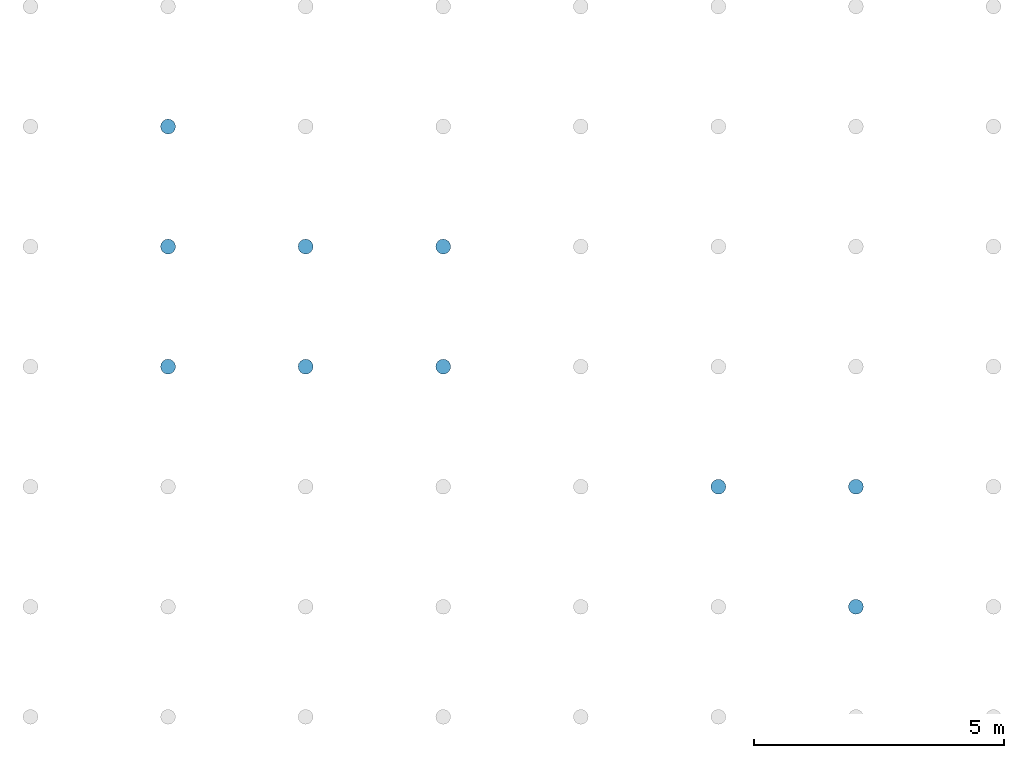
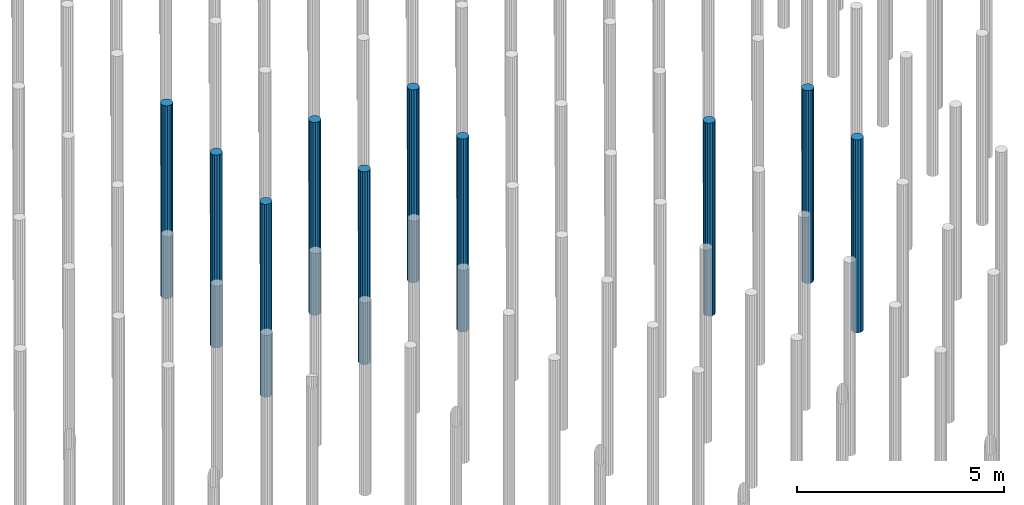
# One storey, part 86 of 102: 10 slabs.
"""IFC2X3 building model written with IfcOpenShell, lengths in millimetres."""

from ifc_helpers import new_model, entity, si_unit, converted_unit, derived_unit, money_unit, direction, frame, origin_with_axes, place, context, subcontext, project, spatial, faceted_brep, material, type_object, element, save


model = new_model("IFC2X3")

# Units and contexts
model_context = context("Model", 3, precision=0.01, world=origin_with_axes(), true_north=direction((0.0, 1.0)))
body_context = subcontext(model_context, "Body", "Model", "MODEL_VIEW")
ifc_project = project(units=[si_unit("LENGTHUNIT", "METRE", prefix="MILLI"), si_unit("AREAUNIT", "SQUARE_METRE"), si_unit("VOLUMEUNIT", "CUBIC_METRE"), converted_unit("PLANEANGLEUNIT", "DEGREE", entity("IfcPlaneAngleMeasure", 0.0174532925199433), si_unit("PLANEANGLEUNIT", "RADIAN"), dimensions=[0, 0, 0, 0, 0, 0, 0]), money_unit("EUR"), converted_unit("TIMEUNIT", "Year", entity("IfcTimeMeasure", 31557600.0), si_unit("TIMEUNIT", "SECOND"), dimensions=[0, 0, 1, 0, 0, 0, 0]), si_unit("MASSUNIT", "GRAM", prefix="KILO"), si_unit("THERMODYNAMICTEMPERATUREUNIT", "DEGREE_CELSIUS"), si_unit("LUMINOUSINTENSITYUNIT", "LUMEN"), si_unit("ENERGYUNIT", "JOULE", prefix="MEGA"), derived_unit("THERMALCONDUCTANCEUNIT", [(si_unit("POWERUNIT", "WATT"), 1), (si_unit("LENGTHUNIT", "METRE"), -1), (si_unit("THERMODYNAMICTEMPERATUREUNIT", "KELVIN"), -1)]), derived_unit("SPECIFICHEATCAPACITYUNIT", [(si_unit("ENERGYUNIT", "JOULE"), 1), (si_unit("MASSUNIT", "GRAM", prefix="KILO"), -1), (si_unit("THERMODYNAMICTEMPERATUREUNIT", "KELVIN"), -1)]), derived_unit("MASSDENSITYUNIT", [(si_unit("MASSUNIT", "GRAM", prefix="KILO"), 1), (si_unit("VOLUMEUNIT", "CUBIC_METRE"), -1)])], contexts=[model_context])

# Site, building, storey
site_placement = place(None, origin_with_axes())
site = spatial("IfcSite", under=ifc_project, at=site_placement, Name="Site", CompositionType="ELEMENT")
building_placement = place(site_placement, origin_with_axes())
building = spatial("IfcBuilding", under=site, at=building_placement, Name="Naam gebouw", CompositionType="ELEMENT")
storey_placement = place(building_placement, frame((0.0, 0.0, -1020.0), z_axis=(0.0, 0.0, 1.0), x_axis=(1.0, 0.0, 0.0)))
storey = spatial("IfcBuildingStorey", under=building, at=storey_placement, Name="-2 fundering", CompositionType="ELEMENT", Elevation=-1020.0)

# Slabs
ifc_material = material(Name="WSP_beton - ihwg beton")
slab_type_1 = type_object("IfcSlabType", Name="Slab 6", PredefinedType="NOTDEFINED")
slab_1_placement = place(storey_placement, frame((25299.99999999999, 30000.0, 979.9999952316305), z_axis=(0.0, 0.0, 1.0), x_axis=(1.0, 0.0, 0.0)))
element("IfcSlab", 1, at=slab_1_placement, inside=storey, type_object=slab_type_1, material=ifc_material, Name="17_WSP_FD_beton - fundatiepaal v21-2:ø300 (schroef)", PredefinedType="NOTDEFINED", context=body_context, shape_type="Brep", body=[
    faceted_brep([(84126.0, 66401.00000000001, -5980.0), (84124.0, 66401.00000000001, -5980.0), (84124.0, 66401.00000000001, -5978.000000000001), (84126.0, 66401.00000000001, -5978.000000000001), (84126.0, 66399.0, -5980.0), (84124.0, 66399.0, -5980.0), (84124.0, 66399.0, -5978.000000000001), (84126.0, 66399.0, -5978.000000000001)], [[[0, 1, 2, 3]], [[0, 4, 5, 1]], [[1, 5, 6, 2]], [[3, 2, 6, 7]], [[4, 0, 3, 7]], [[5, 4, 7, 6]]]),
    faceted_brep([(83975.0, 66400.0, -5980.0), (83986.41807012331, 66342.59748514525, -5980.0), (83986.41807012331, 66342.59748514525, -280.0000000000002), (83975.0, 66400.0, -280.0000000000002), (83986.41807012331, 66457.40251485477, -5980.0), (84018.93398282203, 66506.06601717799, -5980.0), (84067.59748514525, 66538.5819298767, -5980.0), (84125.0, 66550.00000000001, -5980.0), (84182.40251485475, 66538.5819298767, -5980.0), (84231.06601717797, 66506.06601717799, -5980.0), (84263.58192987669, 66457.40251485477, -5980.0), (84275.0, 66400.0, -5980.0), (84263.58192987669, 66342.59748514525, -5980.0), (84231.06601717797, 66293.93398282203, -5980.0), (84182.40251485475, 66261.41807012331, -5980.0), (84125.0, 66250.0, -5980.0), (84067.59748514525, 66261.41807012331, -5980.0), (84018.93398282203, 66293.93398282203, -5980.0), (84018.93398282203, 66293.93398282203, -280.0000000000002), (84067.59748514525, 66261.41807012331, -280.0000000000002), (84125.0, 66250.0, -280.0000000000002), (84182.40251485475, 66261.41807012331, -280.0000000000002), (84231.06601717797, 66293.93398282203, -280.0000000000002), (84263.58192987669, 66342.59748514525, -280.0000000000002), (84275.0, 66400.0, -280.0000000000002), (84263.58192987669, 66457.40251485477, -280.0000000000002), (84231.06601717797, 66506.06601717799, -280.0000000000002), (84182.40251485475, 66538.5819298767, -280.0000000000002), (84125.0, 66550.00000000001, -280.0000000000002), (84067.59748514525, 66538.5819298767, -280.0000000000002), (84018.93398282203, 66506.06601717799, -280.0000000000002), (83986.41807012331, 66457.40251485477, -280.0000000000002)], [[[0, 1, 2, 3]], [[0, 4, 5, 6, 7, 8, 9, 10, 11, 12, 13, 14, 15, 16, 17, 1]], [[1, 17, 18, 2]], [[3, 2, 18, 19, 20, 21, 22, 23, 24, 25, 26, 27, 28, 29, 30, 31]], [[4, 0, 3, 31]], [[5, 4, 31, 30]], [[6, 5, 30, 29]], [[7, 6, 29, 28]], [[8, 7, 28, 27]], [[9, 8, 27, 26]], [[10, 9, 26, 25]], [[11, 10, 25, 24]], [[12, 11, 24, 23]], [[13, 12, 23, 22]], [[14, 13, 22, 21]], [[15, 14, 21, 20]], [[16, 15, 20, 19]], [[17, 16, 19, 18]]]),
])
slab_type_2 = type_object("IfcSlabType", Name="Slab 7", PredefinedType="NOTDEFINED")
slab_2_placement = place(storey_placement, frame((25299.99999999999, 30000.0, 979.9999952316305), z_axis=(0.0, 0.0, 1.0), x_axis=(1.0, 0.0, 0.0)))
element("IfcSlab", 2, at=slab_2_placement, inside=storey, type_object=slab_type_2, material=ifc_material, Name="17_WSP_FD_beton - fundatiepaal v21-2:ø300 (schroef)", PredefinedType="NOTDEFINED", context=body_context, shape_type="Brep", body=[
    faceted_brep([(86876.0, 66401.00000000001, -5980.0), (86874.0, 66401.00000000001, -5980.0), (86874.0, 66401.00000000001, -5978.000000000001), (86876.0, 66401.00000000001, -5978.000000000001), (86876.0, 66399.0, -5980.0), (86874.0, 66399.0, -5980.0), (86874.0, 66399.0, -5978.000000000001), (86876.0, 66399.0, -5978.000000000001)], [[[0, 1, 2, 3]], [[0, 4, 5, 1]], [[1, 5, 6, 2]], [[3, 2, 6, 7]], [[4, 0, 3, 7]], [[5, 4, 7, 6]]]),
    faceted_brep([(86725.0, 66400.0, -5980.0), (86736.41807012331, 66342.59748514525, -5980.0), (86736.41807012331, 66342.59748514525, -280.0000000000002), (86725.0, 66400.0, -280.0000000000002), (86736.41807012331, 66457.40251485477, -5980.0), (86768.93398282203, 66506.06601717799, -5980.0), (86817.59748514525, 66538.5819298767, -5980.0), (86875.0, 66550.00000000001, -5980.0), (86932.40251485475, 66538.5819298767, -5980.0), (86981.06601717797, 66506.06601717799, -5980.0), (87013.58192987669, 66457.40251485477, -5980.0), (87025.0, 66400.0, -5980.0), (87013.58192987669, 66342.59748514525, -5980.0), (86981.06601717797, 66293.93398282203, -5980.0), (86932.40251485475, 66261.41807012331, -5980.0), (86875.0, 66250.0, -5980.0), (86817.59748514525, 66261.41807012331, -5980.0), (86768.93398282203, 66293.93398282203, -5980.0), (86768.93398282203, 66293.93398282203, -280.0000000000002), (86817.59748514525, 66261.41807012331, -280.0000000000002), (86875.0, 66250.0, -280.0000000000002), (86932.40251485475, 66261.41807012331, -280.0000000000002), (86981.06601717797, 66293.93398282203, -280.0000000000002), (87013.58192987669, 66342.59748514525, -280.0000000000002), (87025.0, 66400.0, -280.0000000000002), (87013.58192987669, 66457.40251485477, -280.0000000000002), (86981.06601717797, 66506.06601717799, -280.0000000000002), (86932.40251485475, 66538.5819298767, -280.0000000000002), (86875.0, 66550.00000000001, -280.0000000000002), (86817.59748514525, 66538.5819298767, -280.0000000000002), (86768.93398282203, 66506.06601717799, -280.0000000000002), (86736.41807012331, 66457.40251485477, -280.0000000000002)], [[[0, 1, 2, 3]], [[0, 4, 5, 6, 7, 8, 9, 10, 11, 12, 13, 14, 15, 16, 17, 1]], [[1, 17, 18, 2]], [[3, 2, 18, 19, 20, 21, 22, 23, 24, 25, 26, 27, 28, 29, 30, 31]], [[4, 0, 3, 31]], [[5, 4, 31, 30]], [[6, 5, 30, 29]], [[7, 6, 29, 28]], [[8, 7, 28, 27]], [[9, 8, 27, 26]], [[10, 9, 26, 25]], [[11, 10, 25, 24]], [[12, 11, 24, 23]], [[13, 12, 23, 22]], [[14, 13, 22, 21]], [[15, 14, 21, 20]], [[16, 15, 20, 19]], [[17, 16, 19, 18]]]),
])
slab_type_3 = type_object("IfcSlabType", Name="Slab 9", PredefinedType="NOTDEFINED")
slab_3_placement = place(storey_placement, frame((25299.99999999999, 30000.0, 979.9999952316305), z_axis=(0.0, 0.0, 1.0), x_axis=(1.0, 0.0, 0.0)))
element("IfcSlab", 3, at=slab_3_placement, inside=storey, type_object=slab_type_3, material=ifc_material, Name="17_WSP_FD_beton - fundatiepaal v21-2:ø300 (schroef)", PredefinedType="NOTDEFINED", context=body_context, shape_type="Brep", body=[
    faceted_brep([(81376.0, 66401.00000000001, -5980.0), (81374.0, 66401.00000000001, -5980.0), (81374.0, 66401.00000000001, -5978.000000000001), (81376.0, 66401.00000000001, -5978.000000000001), (81376.0, 66399.0, -5980.0), (81374.0, 66399.0, -5980.0), (81374.0, 66399.0, -5978.000000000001), (81376.0, 66399.0, -5978.000000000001)], [[[0, 1, 2, 3]], [[0, 4, 5, 1]], [[1, 5, 6, 2]], [[3, 2, 6, 7]], [[4, 0, 3, 7]], [[5, 4, 7, 6]]]),
    faceted_brep([(81225.0, 66400.0, -5980.0), (81236.41807012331, 66342.59748514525, -5980.0), (81236.41807012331, 66342.59748514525, -280.0000000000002), (81225.0, 66400.0, -280.0000000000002), (81236.41807012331, 66457.40251485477, -5980.0), (81268.93398282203, 66506.06601717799, -5980.0), (81317.59748514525, 66538.5819298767, -5980.0), (81375.0, 66550.00000000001, -5980.0), (81432.40251485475, 66538.5819298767, -5980.0), (81481.06601717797, 66506.06601717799, -5980.0), (81513.58192987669, 66457.40251485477, -5980.0), (81525.0, 66400.0, -5980.0), (81513.58192987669, 66342.59748514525, -5980.0), (81481.06601717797, 66293.93398282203, -5980.0), (81432.40251485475, 66261.41807012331, -5980.0), (81375.0, 66250.0, -5980.0), (81317.59748514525, 66261.41807012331, -5980.0), (81268.93398282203, 66293.93398282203, -5980.0), (81268.93398282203, 66293.93398282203, -280.0000000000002), (81317.59748514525, 66261.41807012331, -280.0000000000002), (81375.0, 66250.0, -280.0000000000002), (81432.40251485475, 66261.41807012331, -280.0000000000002), (81481.06601717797, 66293.93398282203, -280.0000000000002), (81513.58192987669, 66342.59748514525, -280.0000000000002), (81525.0, 66400.0, -280.0000000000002), (81513.58192987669, 66457.40251485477, -280.0000000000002), (81481.06601717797, 66506.06601717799, -280.0000000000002), (81432.40251485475, 66538.5819298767, -280.0000000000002), (81375.0, 66550.00000000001, -280.0000000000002), (81317.59748514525, 66538.5819298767, -280.0000000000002), (81268.93398282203, 66506.06601717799, -280.0000000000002), (81236.41807012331, 66457.40251485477, -280.0000000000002)], [[[0, 1, 2, 3]], [[0, 4, 5, 6, 7, 8, 9, 10, 11, 12, 13, 14, 15, 16, 17, 1]], [[1, 17, 18, 2]], [[3, 2, 18, 19, 20, 21, 22, 23, 24, 25, 26, 27, 28, 29, 30, 31]], [[4, 0, 3, 31]], [[5, 4, 31, 30]], [[6, 5, 30, 29]], [[7, 6, 29, 28]], [[8, 7, 28, 27]], [[9, 8, 27, 26]], [[10, 9, 26, 25]], [[11, 10, 25, 24]], [[12, 11, 24, 23]], [[13, 12, 23, 22]], [[14, 13, 22, 21]], [[15, 14, 21, 20]], [[16, 15, 20, 19]], [[17, 16, 19, 18]]]),
])
slab_type_4 = type_object("IfcSlabType", Name="Slab 666", PredefinedType="NOTDEFINED")
slab_4_placement = place(storey_placement, frame((25299.99999999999, 30000.0, 979.9999952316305), z_axis=(0.0, 0.0, 1.0), x_axis=(1.0, 0.0, 0.0)))
element("IfcSlab", 4, at=slab_4_placement, inside=storey, type_object=slab_type_4, material=ifc_material, Name="17_WSP_FD_beton - fundatiepaal v21-2:ø300 (schroef)", PredefinedType="NOTDEFINED", context=body_context, shape_type="Brep", body=[
    faceted_brep([(92376.0, 64001.00000000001, -5980.0), (92374.0, 64001.00000000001, -5980.0), (92374.0, 64001.00000000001, -5978.000000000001), (92376.0, 64001.00000000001, -5978.000000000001), (92376.0, 63999.0, -5980.0), (92374.0, 63999.0, -5980.0), (92374.0, 63999.0, -5978.000000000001), (92376.0, 63999.0, -5978.000000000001)], [[[0, 1, 2, 3]], [[0, 4, 5, 1]], [[1, 5, 6, 2]], [[3, 2, 6, 7]], [[4, 0, 3, 7]], [[5, 4, 7, 6]]]),
    faceted_brep([(92225.0, 64000.0, -5980.0), (92236.41807012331, 63942.59748514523, -5980.0), (92236.41807012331, 63942.59748514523, -280.0000000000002), (92225.0, 64000.0, -280.0000000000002), (92236.41807012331, 64057.40251485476, -5980.0), (92268.93398282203, 64106.06601717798, -5980.0), (92317.59748514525, 64138.58192987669, -5980.0), (92375.0, 64150.00000000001, -5980.0), (92432.40251485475, 64138.58192987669, -5980.0), (92481.06601717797, 64106.06601717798, -5980.0), (92513.58192987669, 64057.40251485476, -5980.0), (92525.0, 64000.0, -5980.0), (92513.58192987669, 63942.59748514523, -5980.0), (92481.06601717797, 63893.93398282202, -5980.0), (92432.40251485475, 63861.41807012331, -5980.0), (92375.0, 63850.0, -5980.0), (92317.59748514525, 63861.41807012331, -5980.0), (92268.93398282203, 63893.93398282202, -5980.0), (92268.93398282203, 63893.93398282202, -280.0000000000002), (92317.59748514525, 63861.41807012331, -280.0000000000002), (92375.0, 63850.0, -280.0000000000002), (92432.40251485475, 63861.41807012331, -280.0000000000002), (92481.06601717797, 63893.93398282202, -280.0000000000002), (92513.58192987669, 63942.59748514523, -280.0000000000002), (92525.0, 64000.0, -280.0000000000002), (92513.58192987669, 64057.40251485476, -280.0000000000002), (92481.06601717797, 64106.06601717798, -280.0000000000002), (92432.40251485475, 64138.58192987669, -280.0000000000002), (92375.0, 64150.00000000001, -280.0000000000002), (92317.59748514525, 64138.58192987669, -280.0000000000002), (92268.93398282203, 64106.06601717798, -280.0000000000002), (92236.41807012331, 64057.40251485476, -280.0000000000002)], [[[0, 1, 2, 3]], [[0, 4, 5, 6, 7, 8, 9, 10, 11, 12, 13, 14, 15, 16, 17, 1]], [[1, 17, 18, 2]], [[3, 2, 18, 19, 20, 21, 22, 23, 24, 25, 26, 27, 28, 29, 30, 31]], [[4, 0, 3, 31]], [[5, 4, 31, 30]], [[6, 5, 30, 29]], [[7, 6, 29, 28]], [[8, 7, 28, 27]], [[9, 8, 27, 26]], [[10, 9, 26, 25]], [[11, 10, 25, 24]], [[12, 11, 24, 23]], [[13, 12, 23, 22]], [[14, 13, 22, 21]], [[15, 14, 21, 20]], [[16, 15, 20, 19]], [[17, 16, 19, 18]]]),
])
slab_type_5 = type_object("IfcSlabType", Name="Slab 667", PredefinedType="NOTDEFINED")
slab_5_placement = place(storey_placement, frame((25299.99999999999, 30000.0, 979.9999952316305), z_axis=(0.0, 0.0, 1.0), x_axis=(1.0, 0.0, 0.0)))
element("IfcSlab", 5, at=slab_5_placement, inside=storey, type_object=slab_type_5, material=ifc_material, Name="17_WSP_FD_beton - fundatiepaal v21-2:ø300 (schroef)", PredefinedType="NOTDEFINED", context=body_context, shape_type="Brep", body=[
    faceted_brep([(95126.0, 64001.00000000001, -5980.0), (95124.0, 64001.00000000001, -5980.0), (95124.0, 64001.00000000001, -5978.000000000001), (95126.0, 64001.00000000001, -5978.000000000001), (95126.0, 63999.0, -5980.0), (95124.0, 63999.0, -5980.0), (95124.0, 63999.0, -5978.000000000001), (95126.0, 63999.0, -5978.000000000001)], [[[0, 1, 2, 3]], [[0, 4, 5, 1]], [[1, 5, 6, 2]], [[3, 2, 6, 7]], [[4, 0, 3, 7]], [[5, 4, 7, 6]]]),
    faceted_brep([(94975.0, 64000.0, -5980.0), (94986.41807012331, 63942.59748514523, -5980.0), (94986.41807012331, 63942.59748514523, -280.0000000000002), (94975.0, 64000.0, -280.0000000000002), (94986.41807012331, 64057.40251485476, -5980.0), (95018.93398282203, 64106.06601717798, -5980.0), (95067.59748514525, 64138.58192987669, -5980.0), (95125.0, 64150.00000000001, -5980.0), (95182.40251485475, 64138.58192987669, -5980.0), (95231.06601717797, 64106.06601717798, -5980.0), (95263.58192987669, 64057.40251485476, -5980.0), (95275.0, 64000.0, -5980.0), (95263.58192987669, 63942.59748514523, -5980.0), (95231.06601717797, 63893.93398282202, -5980.0), (95182.40251485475, 63861.41807012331, -5980.0), (95125.0, 63850.0, -5980.0), (95067.59748514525, 63861.41807012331, -5980.0), (95018.93398282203, 63893.93398282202, -5980.0), (95018.93398282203, 63893.93398282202, -280.0000000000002), (95067.59748514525, 63861.41807012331, -280.0000000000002), (95125.0, 63850.0, -280.0000000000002), (95182.40251485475, 63861.41807012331, -280.0000000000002), (95231.06601717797, 63893.93398282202, -280.0000000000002), (95263.58192987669, 63942.59748514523, -280.0000000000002), (95275.0, 64000.0, -280.0000000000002), (95263.58192987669, 64057.40251485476, -280.0000000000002), (95231.06601717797, 64106.06601717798, -280.0000000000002), (95182.40251485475, 64138.58192987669, -280.0000000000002), (95125.0, 64150.00000000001, -280.0000000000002), (95067.59748514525, 64138.58192987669, -280.0000000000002), (95018.93398282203, 64106.06601717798, -280.0000000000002), (94986.41807012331, 64057.40251485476, -280.0000000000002)], [[[0, 1, 2, 3]], [[0, 4, 5, 6, 7, 8, 9, 10, 11, 12, 13, 14, 15, 16, 17, 1]], [[1, 17, 18, 2]], [[3, 2, 18, 19, 20, 21, 22, 23, 24, 25, 26, 27, 28, 29, 30, 31]], [[4, 0, 3, 31]], [[5, 4, 31, 30]], [[6, 5, 30, 29]], [[7, 6, 29, 28]], [[8, 7, 28, 27]], [[9, 8, 27, 26]], [[10, 9, 26, 25]], [[11, 10, 25, 24]], [[12, 11, 24, 23]], [[13, 12, 23, 22]], [[14, 13, 22, 21]], [[15, 14, 21, 20]], [[16, 15, 20, 19]], [[17, 16, 19, 18]]]),
])
slab_type_6 = type_object("IfcSlabType", Name="Slab 681", PredefinedType="NOTDEFINED")
slab_6_placement = place(storey_placement, frame((25299.99999999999, 30000.0, 979.9999952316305), z_axis=(0.0, 0.0, 1.0), x_axis=(1.0, 0.0, 0.0)))
element("IfcSlab", 6, at=slab_6_placement, inside=storey, type_object=slab_type_6, material=ifc_material, Name="17_WSP_FD_beton - fundatiepaal v21-2:ø300 (schroef)", PredefinedType="NOTDEFINED", context=body_context, shape_type="Brep", body=[
    faceted_brep([(84126.0, 68801.0, -5980.0), (84124.0, 68801.0, -5980.0), (84124.0, 68801.0, -5978.000000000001), (84126.0, 68801.0, -5978.000000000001), (84126.0, 68798.99999999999, -5980.0), (84124.0, 68798.99999999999, -5980.0), (84124.0, 68798.99999999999, -5978.000000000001), (84126.0, 68798.99999999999, -5978.000000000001)], [[[0, 1, 2, 3]], [[0, 4, 5, 1]], [[1, 5, 6, 2]], [[3, 2, 6, 7]], [[4, 0, 3, 7]], [[5, 4, 7, 6]]]),
    faceted_brep([(83975.0, 68800.0, -5980.0), (83986.41807012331, 68742.59748514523, -5980.0), (83986.41807012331, 68742.59748514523, -280.0000000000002), (83975.0, 68800.0, -280.0000000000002), (83986.41807012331, 68857.40251485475, -5980.0), (84018.93398282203, 68906.06601717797, -5980.0), (84067.59748514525, 68938.58192987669, -5980.0), (84125.0, 68950.0, -5980.0), (84182.40251485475, 68938.58192987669, -5980.0), (84231.06601717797, 68906.06601717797, -5980.0), (84263.58192987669, 68857.40251485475, -5980.0), (84275.0, 68800.0, -5980.0), (84263.58192987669, 68742.59748514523, -5980.0), (84231.06601717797, 68693.93398282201, -5980.0), (84182.40251485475, 68661.4180701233, -5980.0), (84125.0, 68649.99999999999, -5980.0), (84067.59748514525, 68661.4180701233, -5980.0), (84018.93398282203, 68693.93398282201, -5980.0), (84018.93398282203, 68693.93398282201, -280.0000000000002), (84067.59748514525, 68661.4180701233, -280.0000000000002), (84125.0, 68649.99999999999, -280.0000000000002), (84182.40251485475, 68661.4180701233, -280.0000000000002), (84231.06601717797, 68693.93398282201, -280.0000000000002), (84263.58192987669, 68742.59748514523, -280.0000000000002), (84275.0, 68800.0, -280.0000000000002), (84263.58192987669, 68857.40251485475, -280.0000000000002), (84231.06601717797, 68906.06601717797, -280.0000000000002), (84182.40251485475, 68938.58192987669, -280.0000000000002), (84125.0, 68950.0, -280.0000000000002), (84067.59748514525, 68938.58192987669, -280.0000000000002), (84018.93398282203, 68906.06601717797, -280.0000000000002), (83986.41807012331, 68857.40251485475, -280.0000000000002)], [[[0, 1, 2, 3]], [[0, 4, 5, 6, 7, 8, 9, 10, 11, 12, 13, 14, 15, 16, 17, 1]], [[1, 17, 18, 2]], [[3, 2, 18, 19, 20, 21, 22, 23, 24, 25, 26, 27, 28, 29, 30, 31]], [[4, 0, 3, 31]], [[5, 4, 31, 30]], [[6, 5, 30, 29]], [[7, 6, 29, 28]], [[8, 7, 28, 27]], [[9, 8, 27, 26]], [[10, 9, 26, 25]], [[11, 10, 25, 24]], [[12, 11, 24, 23]], [[13, 12, 23, 22]], [[14, 13, 22, 21]], [[15, 14, 21, 20]], [[16, 15, 20, 19]], [[17, 16, 19, 18]]]),
])
slab_type_7 = type_object("IfcSlabType", Name="Slab 682", PredefinedType="NOTDEFINED")
slab_7_placement = place(storey_placement, frame((25299.99999999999, 30000.0, 979.9999952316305), z_axis=(0.0, 0.0, 1.0), x_axis=(1.0, 0.0, 0.0)))
element("IfcSlab", 7, at=slab_7_placement, inside=storey, type_object=slab_type_7, material=ifc_material, Name="17_WSP_FD_beton - fundatiepaal v21-2:ø300 (schroef)", PredefinedType="NOTDEFINED", context=body_context, shape_type="Brep", body=[
    faceted_brep([(86876.0, 68801.0, -5980.0), (86874.0, 68801.0, -5980.0), (86874.0, 68801.0, -5978.000000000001), (86876.0, 68801.0, -5978.000000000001), (86876.0, 68798.99999999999, -5980.0), (86874.0, 68798.99999999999, -5980.0), (86874.0, 68798.99999999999, -5978.000000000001), (86876.0, 68798.99999999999, -5978.000000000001)], [[[0, 1, 2, 3]], [[0, 4, 5, 1]], [[1, 5, 6, 2]], [[3, 2, 6, 7]], [[4, 0, 3, 7]], [[5, 4, 7, 6]]]),
    faceted_brep([(86725.0, 68800.0, -5980.0), (86736.41807012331, 68742.59748514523, -5980.0), (86736.41807012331, 68742.59748514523, -280.0000000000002), (86725.0, 68800.0, -280.0000000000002), (86736.41807012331, 68857.40251485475, -5980.0), (86768.93398282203, 68906.06601717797, -5980.0), (86817.59748514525, 68938.58192987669, -5980.0), (86875.0, 68950.0, -5980.0), (86932.40251485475, 68938.58192987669, -5980.0), (86981.06601717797, 68906.06601717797, -5980.0), (87013.58192987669, 68857.40251485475, -5980.0), (87025.0, 68800.0, -5980.0), (87013.58192987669, 68742.59748514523, -5980.0), (86981.06601717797, 68693.93398282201, -5980.0), (86932.40251485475, 68661.4180701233, -5980.0), (86875.0, 68649.99999999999, -5980.0), (86817.59748514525, 68661.4180701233, -5980.0), (86768.93398282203, 68693.93398282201, -5980.0), (86768.93398282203, 68693.93398282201, -280.0000000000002), (86817.59748514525, 68661.4180701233, -280.0000000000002), (86875.0, 68649.99999999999, -280.0000000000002), (86932.40251485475, 68661.4180701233, -280.0000000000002), (86981.06601717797, 68693.93398282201, -280.0000000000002), (87013.58192987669, 68742.59748514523, -280.0000000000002), (87025.0, 68800.0, -280.0000000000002), (87013.58192987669, 68857.40251485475, -280.0000000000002), (86981.06601717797, 68906.06601717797, -280.0000000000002), (86932.40251485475, 68938.58192987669, -280.0000000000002), (86875.0, 68950.0, -280.0000000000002), (86817.59748514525, 68938.58192987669, -280.0000000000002), (86768.93398282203, 68906.06601717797, -280.0000000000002), (86736.41807012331, 68857.40251485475, -280.0000000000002)], [[[0, 1, 2, 3]], [[0, 4, 5, 6, 7, 8, 9, 10, 11, 12, 13, 14, 15, 16, 17, 1]], [[1, 17, 18, 2]], [[3, 2, 18, 19, 20, 21, 22, 23, 24, 25, 26, 27, 28, 29, 30, 31]], [[4, 0, 3, 31]], [[5, 4, 31, 30]], [[6, 5, 30, 29]], [[7, 6, 29, 28]], [[8, 7, 28, 27]], [[9, 8, 27, 26]], [[10, 9, 26, 25]], [[11, 10, 25, 24]], [[12, 11, 24, 23]], [[13, 12, 23, 22]], [[14, 13, 22, 21]], [[15, 14, 21, 20]], [[16, 15, 20, 19]], [[17, 16, 19, 18]]]),
])
slab_type_8 = type_object("IfcSlabType", Name="Slab 680", PredefinedType="NOTDEFINED")
slab_8_placement = place(storey_placement, frame((25299.99999999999, 30000.0, 979.9999952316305), z_axis=(0.0, 0.0, 1.0), x_axis=(1.0, 0.0, 0.0)))
element("IfcSlab", 8, at=slab_8_placement, inside=storey, type_object=slab_type_8, material=ifc_material, Name="17_WSP_FD_beton - fundatiepaal v21-2:ø300 (schroef)", PredefinedType="NOTDEFINED", context=body_context, shape_type="Brep", body=[
    faceted_brep([(81376.0, 68801.0, -5980.0), (81374.0, 68801.0, -5980.0), (81374.0, 68801.0, -5978.000000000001), (81376.0, 68801.0, -5978.000000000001), (81376.0, 68798.99999999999, -5980.0), (81374.0, 68798.99999999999, -5980.0), (81374.0, 68798.99999999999, -5978.000000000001), (81376.0, 68798.99999999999, -5978.000000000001)], [[[0, 1, 2, 3]], [[0, 4, 5, 1]], [[1, 5, 6, 2]], [[3, 2, 6, 7]], [[4, 0, 3, 7]], [[5, 4, 7, 6]]]),
    faceted_brep([(81225.0, 68800.0, -5980.0), (81236.41807012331, 68742.59748514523, -5980.0), (81236.41807012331, 68742.59748514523, -280.0000000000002), (81225.0, 68800.0, -280.0000000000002), (81236.41807012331, 68857.40251485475, -5980.0), (81268.93398282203, 68906.06601717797, -5980.0), (81317.59748514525, 68938.58192987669, -5980.0), (81375.0, 68950.0, -5980.0), (81432.40251485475, 68938.58192987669, -5980.0), (81481.06601717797, 68906.06601717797, -5980.0), (81513.58192987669, 68857.40251485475, -5980.0), (81525.0, 68800.0, -5980.0), (81513.58192987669, 68742.59748514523, -5980.0), (81481.06601717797, 68693.93398282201, -5980.0), (81432.40251485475, 68661.4180701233, -5980.0), (81375.0, 68649.99999999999, -5980.0), (81317.59748514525, 68661.4180701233, -5980.0), (81268.93398282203, 68693.93398282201, -5980.0), (81268.93398282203, 68693.93398282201, -280.0000000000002), (81317.59748514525, 68661.4180701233, -280.0000000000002), (81375.0, 68649.99999999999, -280.0000000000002), (81432.40251485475, 68661.4180701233, -280.0000000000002), (81481.06601717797, 68693.93398282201, -280.0000000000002), (81513.58192987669, 68742.59748514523, -280.0000000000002), (81525.0, 68800.0, -280.0000000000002), (81513.58192987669, 68857.40251485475, -280.0000000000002), (81481.06601717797, 68906.06601717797, -280.0000000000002), (81432.40251485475, 68938.58192987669, -280.0000000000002), (81375.0, 68950.0, -280.0000000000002), (81317.59748514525, 68938.58192987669, -280.0000000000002), (81268.93398282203, 68906.06601717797, -280.0000000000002), (81236.41807012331, 68857.40251485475, -280.0000000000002)], [[[0, 1, 2, 3]], [[0, 4, 5, 6, 7, 8, 9, 10, 11, 12, 13, 14, 15, 16, 17, 1]], [[1, 17, 18, 2]], [[3, 2, 18, 19, 20, 21, 22, 23, 24, 25, 26, 27, 28, 29, 30, 31]], [[4, 0, 3, 31]], [[5, 4, 31, 30]], [[6, 5, 30, 29]], [[7, 6, 29, 28]], [[8, 7, 28, 27]], [[9, 8, 27, 26]], [[10, 9, 26, 25]], [[11, 10, 25, 24]], [[12, 11, 24, 23]], [[13, 12, 23, 22]], [[14, 13, 22, 21]], [[15, 14, 21, 20]], [[16, 15, 20, 19]], [[17, 16, 19, 18]]]),
])
slab_type_9 = type_object("IfcSlabType", Name="Slab 713", PredefinedType="NOTDEFINED")
slab_9_placement = place(storey_placement, frame((25299.99999999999, 30000.0, 979.9999952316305), z_axis=(0.0, 0.0, 1.0), x_axis=(1.0, 0.0, 0.0)))
element("IfcSlab", 9, at=slab_9_placement, inside=storey, type_object=slab_type_9, material=ifc_material, Name="17_WSP_FD_beton - fundatiepaal v21-2:ø300 (schroef)", PredefinedType="NOTDEFINED", context=body_context, shape_type="Brep", body=[
    faceted_brep([(95126.0, 61601.0, -5980.0), (95124.0, 61601.0, -5980.0), (95124.0, 61601.0, -5978.000000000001), (95126.0, 61601.0, -5978.000000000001), (95126.0, 61599.00000000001, -5980.0), (95124.0, 61599.00000000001, -5980.0), (95124.0, 61599.00000000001, -5978.000000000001), (95126.0, 61599.00000000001, -5978.000000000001)], [[[0, 1, 2, 3]], [[0, 4, 5, 1]], [[1, 5, 6, 2]], [[3, 2, 6, 7]], [[4, 0, 3, 7]], [[5, 4, 7, 6]]]),
    faceted_brep([(94975.0, 61600.0, -5980.0), (94986.41807012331, 61542.59748514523, -5980.0), (94986.41807012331, 61542.59748514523, -280.0000000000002), (94975.0, 61600.0, -280.0000000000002), (94986.41807012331, 61657.40251485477, -5980.0), (95018.93398282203, 61706.06601717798, -5980.0), (95067.59748514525, 61738.58192987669, -5980.0), (95125.0, 61750.0, -5980.0), (95182.40251485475, 61738.58192987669, -5980.0), (95231.06601717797, 61706.06601717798, -5980.0), (95263.58192987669, 61657.40251485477, -5980.0), (95275.0, 61600.0, -5980.0), (95263.58192987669, 61542.59748514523, -5980.0), (95231.06601717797, 61493.93398282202, -5980.0), (95182.40251485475, 61461.41807012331, -5980.0), (95125.0, 61450.0, -5980.0), (95067.59748514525, 61461.41807012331, -5980.0), (95018.93398282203, 61493.93398282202, -5980.0), (95018.93398282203, 61493.93398282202, -280.0000000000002), (95067.59748514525, 61461.41807012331, -280.0000000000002), (95125.0, 61450.0, -280.0000000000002), (95182.40251485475, 61461.41807012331, -280.0000000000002), (95231.06601717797, 61493.93398282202, -280.0000000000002), (95263.58192987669, 61542.59748514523, -280.0000000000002), (95275.0, 61600.0, -280.0000000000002), (95263.58192987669, 61657.40251485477, -280.0000000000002), (95231.06601717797, 61706.06601717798, -280.0000000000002), (95182.40251485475, 61738.58192987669, -280.0000000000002), (95125.0, 61750.0, -280.0000000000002), (95067.59748514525, 61738.58192987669, -280.0000000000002), (95018.93398282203, 61706.06601717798, -280.0000000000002), (94986.41807012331, 61657.40251485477, -280.0000000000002)], [[[0, 1, 2, 3]], [[0, 4, 5, 6, 7, 8, 9, 10, 11, 12, 13, 14, 15, 16, 17, 1]], [[1, 17, 18, 2]], [[3, 2, 18, 19, 20, 21, 22, 23, 24, 25, 26, 27, 28, 29, 30, 31]], [[4, 0, 3, 31]], [[5, 4, 31, 30]], [[6, 5, 30, 29]], [[7, 6, 29, 28]], [[8, 7, 28, 27]], [[9, 8, 27, 26]], [[10, 9, 26, 25]], [[11, 10, 25, 24]], [[12, 11, 24, 23]], [[13, 12, 23, 22]], [[14, 13, 22, 21]], [[15, 14, 21, 20]], [[16, 15, 20, 19]], [[17, 16, 19, 18]]]),
])
slab_type_10 = type_object("IfcSlabType", Name="Slab 722", PredefinedType="NOTDEFINED")
slab_10_placement = place(storey_placement, frame((25299.99999999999, 30000.0, 979.9999952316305), z_axis=(0.0, 0.0, 1.0), x_axis=(1.0, 0.0, 0.0)))
element("IfcSlab", 10, at=slab_10_placement, inside=storey, type_object=slab_type_10, material=ifc_material, Name="17_WSP_FD_beton - fundatiepaal v21-2:ø300 (schroef)", PredefinedType="NOTDEFINED", context=body_context, shape_type="Brep", body=[
    faceted_brep([(81376.0, 71201.00000000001, -5980.0), (81374.0, 71201.00000000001, -5980.0), (81374.0, 71201.00000000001, -5978.000000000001), (81376.0, 71201.00000000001, -5978.000000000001), (81376.0, 71199.0, -5980.0), (81374.0, 71199.0, -5980.0), (81374.0, 71199.0, -5978.000000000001), (81376.0, 71199.0, -5978.000000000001)], [[[0, 1, 2, 3]], [[0, 4, 5, 1]], [[1, 5, 6, 2]], [[3, 2, 6, 7]], [[4, 0, 3, 7]], [[5, 4, 7, 6]]]),
    faceted_brep([(81225.0, 71200.0, -5980.0), (81236.41807012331, 71142.59748514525, -5980.0), (81236.41807012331, 71142.59748514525, -280.0000000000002), (81225.0, 71200.0, -280.0000000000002), (81236.41807012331, 71257.40251485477, -5980.0), (81268.93398282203, 71306.06601717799, -5980.0), (81317.59748514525, 71338.5819298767, -5980.0), (81375.0, 71350.00000000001, -5980.0), (81432.40251485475, 71338.5819298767, -5980.0), (81481.06601717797, 71306.06601717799, -5980.0), (81513.58192987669, 71257.40251485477, -5980.0), (81525.0, 71200.0, -5980.0), (81513.58192987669, 71142.59748514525, -5980.0), (81481.06601717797, 71093.93398282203, -5980.0), (81432.40251485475, 71061.41807012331, -5980.0), (81375.0, 71050.0, -5980.0), (81317.59748514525, 71061.41807012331, -5980.0), (81268.93398282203, 71093.93398282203, -5980.0), (81268.93398282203, 71093.93398282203, -280.0000000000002), (81317.59748514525, 71061.41807012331, -280.0000000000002), (81375.0, 71050.0, -280.0000000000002), (81432.40251485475, 71061.41807012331, -280.0000000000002), (81481.06601717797, 71093.93398282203, -280.0000000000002), (81513.58192987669, 71142.59748514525, -280.0000000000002), (81525.0, 71200.0, -280.0000000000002), (81513.58192987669, 71257.40251485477, -280.0000000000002), (81481.06601717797, 71306.06601717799, -280.0000000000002), (81432.40251485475, 71338.5819298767, -280.0000000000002), (81375.0, 71350.00000000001, -280.0000000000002), (81317.59748514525, 71338.5819298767, -280.0000000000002), (81268.93398282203, 71306.06601717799, -280.0000000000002), (81236.41807012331, 71257.40251485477, -280.0000000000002)], [[[0, 1, 2, 3]], [[0, 4, 5, 6, 7, 8, 9, 10, 11, 12, 13, 14, 15, 16, 17, 1]], [[1, 17, 18, 2]], [[3, 2, 18, 19, 20, 21, 22, 23, 24, 25, 26, 27, 28, 29, 30, 31]], [[4, 0, 3, 31]], [[5, 4, 31, 30]], [[6, 5, 30, 29]], [[7, 6, 29, 28]], [[8, 7, 28, 27]], [[9, 8, 27, 26]], [[10, 9, 26, 25]], [[11, 10, 25, 24]], [[12, 11, 24, 23]], [[13, 12, 23, 22]], [[14, 13, 22, 21]], [[15, 14, 21, 20]], [[16, 15, 20, 19]], [[17, 16, 19, 18]]]),
])

save(model, "model.ifc")
